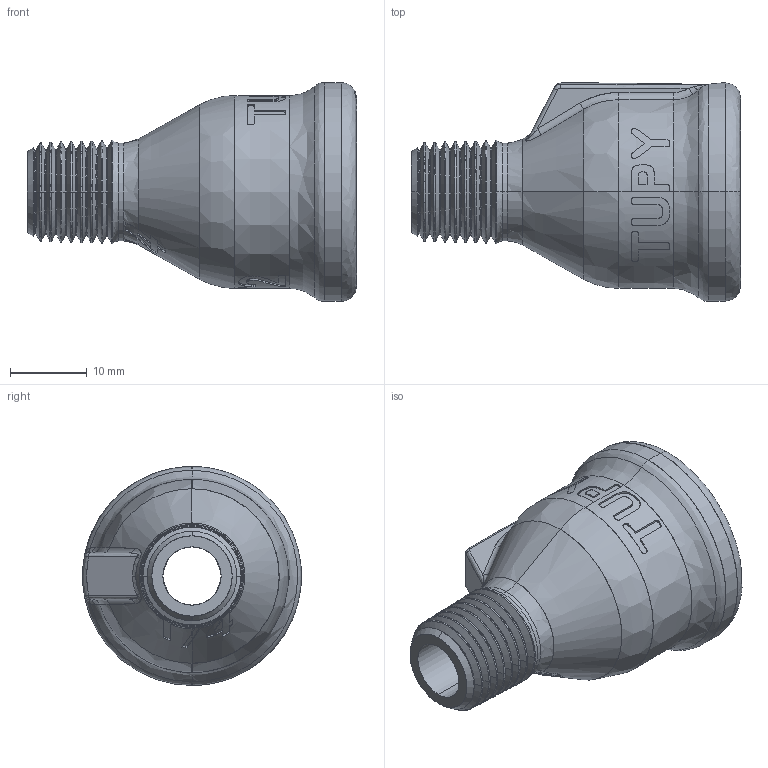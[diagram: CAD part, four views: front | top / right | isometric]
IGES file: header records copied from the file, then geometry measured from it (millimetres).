
Start section: SolidWorks IGES file using analytic representation for surfaces
Global section: file name: C:\Users\Joel Rosa\Desktop\Tubulação\12-35-OK\12-35-025.IGS; native system: SolidWorks 2011; preprocessor: SolidWorks 2011; author: Joel Rosa; date: 121209.030537; units: millimetre
Bounding box: 43 x 28.6 x 28.6 mm (x, y, z)
Surface area: 6092.2 mm2 (no closed solid volume)
Topology: 0 solids, 0 shells, 333 faces, 2727 edges, 2725 vertices
Faces by surface type: bspline 235, revolution 98
